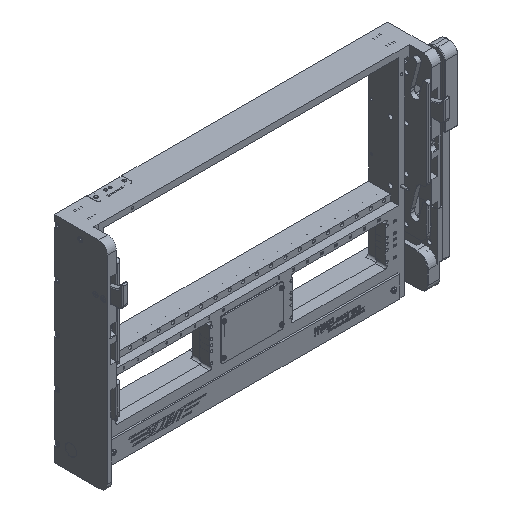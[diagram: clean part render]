
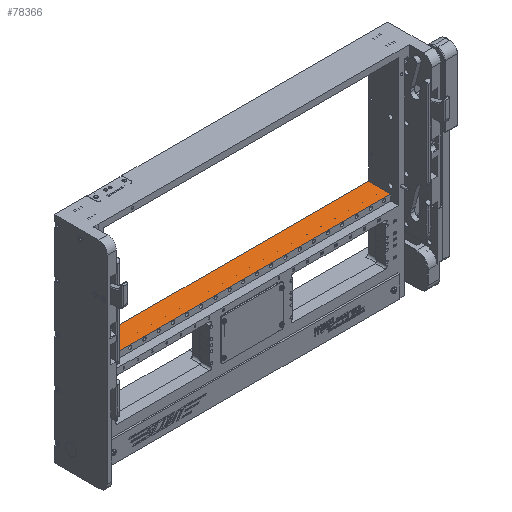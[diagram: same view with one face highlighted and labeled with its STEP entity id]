
A CAD part, isometric view. The second image highlights one B-rep face of the part: STEP entity #78366.
In plain terms, the highlighted planar face has unit normal (0, 0, 1).
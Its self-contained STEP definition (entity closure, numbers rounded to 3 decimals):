
#7298=PLANE('',#82298);
#10979=FACE_OUTER_BOUND('',#15808,.T.);
#15808=EDGE_LOOP('',(#65107,#65108,#65109,#65110));
#20120=LINE('',#113665,#26334);
#20517=LINE('',#117783,#26731);
#22908=LINE('',#134384,#29122);
#22909=LINE('',#134385,#29123);
#26334=VECTOR('',#89062,1.273);
#26731=VECTOR('',#90241,1.273);
#29122=VECTOR('',#94690,16.8);
#29123=VECTOR('',#94691,16.8);
#34471=VERTEX_POINT('',#113662);
#34472=VERTEX_POINT('',#113664);
#34873=VERTEX_POINT('',#117780);
#34874=VERTEX_POINT('',#117782);
#42662=EDGE_CURVE('',#34472,#34471,#20120,.T.);
#43276=EDGE_CURVE('',#34873,#34874,#20517,.T.);
#47033=EDGE_CURVE('',#34874,#34471,#22908,.T.);
#47034=EDGE_CURVE('',#34873,#34472,#22909,.T.);
#65107=ORIENTED_EDGE('',*,*,#47033,.F.);
#65108=ORIENTED_EDGE('',*,*,#43276,.F.);
#65109=ORIENTED_EDGE('',*,*,#47034,.T.);
#65110=ORIENTED_EDGE('',*,*,#42662,.T.);
#78366=ADVANCED_FACE('',(#10979),#7298,.T.);
#82298=AXIS2_PLACEMENT_3D('',#134383,#94688,#94689);
#89062=DIRECTION('',(0.,-1.,0.));
#90241=DIRECTION('',(0.,-1.,0.));
#94688=DIRECTION('center_axis',(0.,0.,
1.));
#94689=DIRECTION('ref_axis',(0.,-1.,0.));
#94690=DIRECTION('',(-1.,0.,0.));
#94691=DIRECTION('',(-1.,0.,0.));
#113662=CARTESIAN_POINT('',(1.1,0.45,4.95));
#113664=CARTESIAN_POINT('',(1.1,1.723,4.95));
#113665=CARTESIAN_POINT('',(1.1,1.723,4.95));
#117780=CARTESIAN_POINT('',(17.9,1.723,4.95));
#117782=CARTESIAN_POINT('',(17.9,0.45,4.95));
#117783=CARTESIAN_POINT('',(17.9,1.723,4.95));
#134383=CARTESIAN_POINT('Origin',(17.9,1.723,4.95));
#134384=CARTESIAN_POINT('',(17.9,0.45,4.95));
#134385=CARTESIAN_POINT('',(17.9,1.723,4.95));
